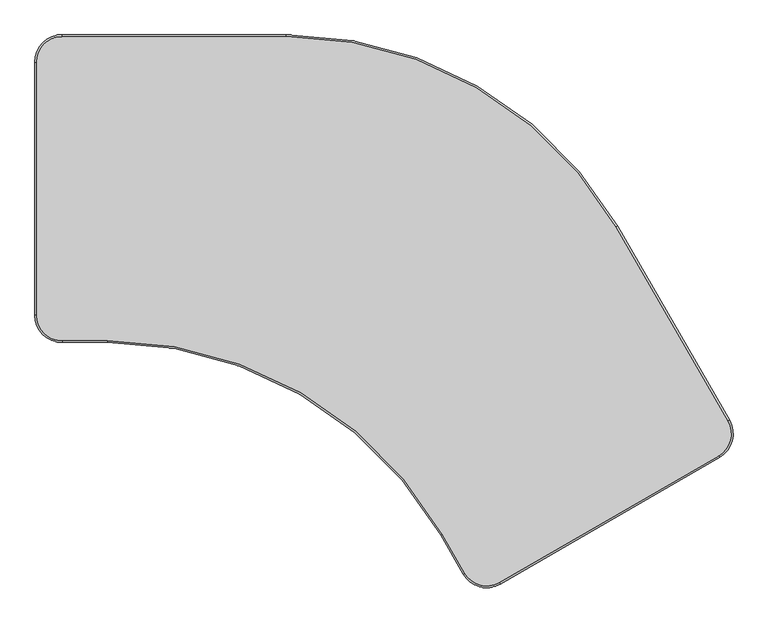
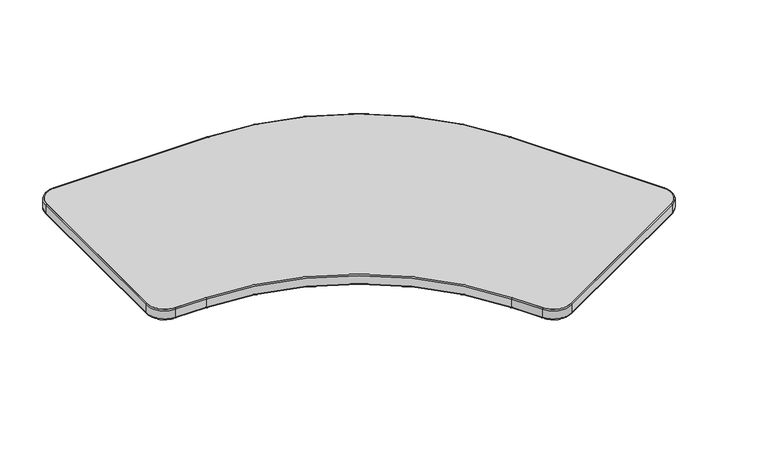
"""IFC4 building model written with IfcOpenShell, lengths in millimetres: furniture geometry, Steelcase - Answer Solution - Universal Table - Corner 120deg - 3mm Edge : 24D x 36W."""

from ifc_helpers import new_model, si_unit, point, frame, frame_2d, origin, place, context, project, spatial, polyline, circle_curve, ellipse_curve, trimmed, segment, composite_curve, outline, extrude, source, transform, mapped, element, save
from ifc_brep_helpers import plane_surface, cylinder_surface, revolved_surface, advanced_brep


def furniture_45c099b7(model_context):
    return source(origin(), model_context, "Body", "SolidModel", [
        advanced_brep(
        [(53.8515842, -609.5840268, 641.1116623), (0.0, -555.7324426, 641.1116623), (3.0515842, -555.7324426, 638.1749651), (53.8515842, -606.5324426, 638.1749651), (53.8515842, -609.5840268, 665.3021988), (0.0, -555.7324426, 665.3021988), (53.8515842, -606.5324426, 668.274), (3.0515842, -555.7324426, 668.274), (143.5214355, -606.5324426, 638.1749651), (143.5214355, -609.5840268, 641.1116623), (143.5214355, -609.5840268, 665.3021988), (143.5214355, -606.5324426, 668.274), (804.0499395, -991.1206911, 641.1116623), (806.6933135, -989.5959814, 638.1749651), (804.0499395, -991.1206911, 665.3021988), (806.6933135, -989.5959814, 668.274), (851.3482629, -1067.0138229, 638.1749651), (848.7048888, -1068.5385326, 641.1116623), (848.7048888, -1068.5385326, 665.3021988), (851.3482629, -1067.0138229, 668.274), (922.2785485, -1088.2686786, 641.1116623), (920.7527561, -1085.6259294, 638.1749651), (922.2785485, -1088.2686786, 665.3021988), (920.7527561, -1085.6259294, 668.274), (1355.4464438, -834.655351, 638.1749651), (1356.9722362, -837.2981003, 641.1116623), (1356.9722362, -837.2981003, 665.3021988), (1355.4464438, -834.655351, 668.274), (1376.6855871, -763.739469, 641.1116623), (1374.0427069, -765.2650345, 638.1749651), (1376.6855871, -763.739469, 665.3021988), (1374.0427069, -765.2650345, 668.274), (1152.1681834, -380.8909984, 638.1749651), (1154.8110636, -379.3654329, 641.1116623), (1154.8110636, -379.3654329, 665.3021988), (1152.1681834, -380.8909984, 668.274), (497.7237019, 0.041684, 641.1116623), (497.7237019, -3.0099001, 638.1749651), (497.7237019, 0.041684, 665.3021988), (497.7237019, -3.0099001, 668.274), (53.8515842, -3.0099001, 638.1749651), (53.8515842, 0.041684, 641.1116623), (53.8515842, 0.041684, 665.3021988), (53.8515842, -3.0099001, 668.274), (0.0, -53.8099001, 641.1116623), (3.0515842, -53.8099001, 638.1749651), (0.0, -53.8099001, 665.3021988), (3.0515842, -53.8099001, 668.274)],
        [
            (0, 1, circle_curve(frame((53.8515842, -555.7324426, 641.1116623), z_axis=(0.0, 0.0, -1.0), x_axis=(-1.0, 0.0, 0.0)), 53.8515842)),
            (1, 2, circle_curve(frame((2.9388598, -555.7324426, 641.1116623), z_axis=(0.0, -1.0, 0.0), x_axis=(1.0, 0.0, 0.0)), 2.9388598)),
            (2, 3, circle_curve(frame((53.8515842, -555.7324426, 638.1749651), z_axis=(0.0, 0.0, 1.0), x_axis=(-1.0, 0.0, 0.0)), 50.8)),
            (3, 0, circle_curve(frame((53.8515842, -606.6451669, 641.1116623), z_axis=(-1.0, 0.0, 0.0), x_axis=(0.0, 1.0, 0.0)), 2.9388598)),
            (4, 5, circle_curve(frame((53.8515842, -555.7324426, 665.3021988), z_axis=(0.0, 0.0, -1.0), x_axis=(-1.0, 0.0, 0.0)), 53.8515842)),
            (5, 1),
            (0, 4),
            (6, 7, circle_curve(frame((53.8515842, -555.7324426, 668.274), z_axis=(0.0, 0.0, -1.0), x_axis=(-1.0, 0.0, 0.0)), 50.8)),
            (7, 5, circle_curve(frame((2.9728441, -555.7324426, 665.3021988), z_axis=(0.0, -1.0, 0.0), x_axis=(1.0, 0.0, 0.0)), 2.9728441)),
            (4, 6, circle_curve(frame((53.8515842, -606.6111826, 665.3021988), z_axis=(-1.0, 0.0, 0.0), x_axis=(0.0, 1.0, 0.0)), 2.9728441)),
            (2, 7),
            (6, 3),
            (3, 8),
            (8, 9, circle_curve(frame((143.5214355, -606.6451669, 641.1116623), z_axis=(-1.0, 0.0, 0.0), x_axis=(0.0, 1.0, 0.0)), 2.9388598)),
            (9, 0),
            (9, 10),
            (10, 4),
            (10, 11, circle_curve(frame((143.5214355, -606.6111826, 665.3021988), z_axis=(-1.0, 0.0, 0.0), x_axis=(0.0, 1.0, 0.0)), 2.9728441)),
            (11, 6),
            (11, 8),
            (12, 9, circle_curve(frame((143.5214355, -1372.116419, 641.1116623), z_axis=(0.0, 0.0, 1.0), x_axis=(0.0, 1.0, 0.0)), 762.5323923)),
            (8, 13, circle_curve(frame((143.5214355, -1372.116419, 638.1749651), z_axis=(0.0, 0.0, -1.0), x_axis=(0.0, 1.0, 0.0)), 765.5839765)),
            (13, 12, circle_curve(frame((806.5956683, -989.6523036, 641.1116623), z_axis=(-0.49964530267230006, 0.8662300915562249, 0.0), x_axis=(0.8662300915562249, 0.49964530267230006, 0.0)), 2.9388598)),
            (14, 10, circle_curve(frame((143.5214355, -1372.116419, 665.3021988), z_axis=(0.0, 0.0, 1.0), x_axis=(0.0, 1.0, 0.0)), 762.5323923)),
            (12, 14),
            (15, 11, circle_curve(frame((143.5214355, -1372.116419, 668.274), z_axis=(0.0, 0.0, 1.0), x_axis=(0.0, 1.0, 0.0)), 765.5839765)),
            (14, 15, circle_curve(frame((806.6251065, -989.6353235, 665.3021988), z_axis=(-0.4996453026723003, 0.8662300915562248, 0.0), x_axis=(0.8662300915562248, 0.4996453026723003, 0.0)), 2.9728441)),
            (15, 13),
            (13, 16),
            (16, 17, circle_curve(frame((851.2506177, -1067.0701451, 641.1116623), z_axis=(-0.49964530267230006, 0.8662300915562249, 0.0), x_axis=(0.8662300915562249, 0.49964530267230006, 0.0)), 2.9388598)),
            (17, 12),
            (17, 18),
            (18, 14),
            (18, 19, circle_curve(frame((851.2800559, -1067.053165, 665.3021988), z_axis=(-0.49964530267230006, 0.8662300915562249, 0.0), x_axis=(0.8662300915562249, 0.49964530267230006, 0.0)), 2.9728441)),
            (19, 15),
            (19, 16),
            (20, 17, circle_curve(frame((895.3527515, -1041.6318415, 641.1116623), z_axis=(0.0, 0.0, -1.0), x_axis=(-0.866230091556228, -0.49964530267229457, 0.0)), 53.8515842)),
            (16, 21, circle_curve(frame((895.3527515, -1041.6318415, 638.1749651), z_axis=(0.0, 0.0, 1.0), x_axis=(-0.866230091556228, -0.49964530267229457, 0.0)), 50.8)),
            (21, 20, circle_curve(frame((920.8091183, -1085.7235515, 641.1116623), z_axis=(-0.8660253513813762, -0.5000000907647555, 0.0), x_axis=(-0.5000000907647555, 0.8660253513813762, 0.0)), 2.9388598)),
            (22, 18, circle_curve(frame((895.3527515, -1041.6318415, 665.3021988), z_axis=(0.0, 0.0, -1.0), x_axis=(-0.866230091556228, -0.49964530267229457, 0.0)), 53.8515842)),
            (20, 22),
            (23, 19, circle_curve(frame((895.3527515, -1041.6318415, 668.274), z_axis=(0.0, 0.0, -1.0), x_axis=(-0.866230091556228, -0.49964530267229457, 0.0)), 50.8)),
            (22, 23, circle_curve(frame((920.7921262, -1085.6941203, 665.3021988), z_axis=(-0.8660253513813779, -0.5000000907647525, 0.0), x_axis=(-0.5000000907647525, 0.8660253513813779, 0.0)), 2.9728441)),
            (23, 21),
            (21, 24),
            (24, 25, circle_curve(frame((1355.502806, -834.7529732, 641.1116623), z_axis=(-0.8660253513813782, -0.5000000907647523, 0.0), x_axis=(-0.5000000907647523, 0.8660253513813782, 0.0)), 2.9388598)),
            (25, 20),
            (25, 26),
            (26, 22),
            (26, 27, circle_curve(frame((1355.4858139, -834.7235419, 665.3021988), z_axis=(-0.8660253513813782, -0.5000000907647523, 0.0), x_axis=(-0.5000000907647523, 0.8660253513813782, 0.0)), 2.9728441)),
            (27, 23),
            (27, 24),
            (28, 25, circle_curve(frame((1330.0464392, -790.6612632, 641.1116623), z_axis=(0.0, 0.0, -1.0), x_axis=(0.5000000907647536, -0.8660253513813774, 0.0)), 53.8515842)),
            (24, 29, circle_curve(frame((1330.0464392, -790.6612632, 638.1749651), z_axis=(0.0, 0.0, 1.0), x_axis=(0.5000000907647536, -0.8660253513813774, 0.0)), 50.8)),
            (29, 28, circle_curve(frame((1374.1403338, -765.2086807, 641.1116623), z_axis=(0.49992576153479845, -0.8660682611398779, 0.0), x_axis=(-0.8660682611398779, -0.49992576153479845, 0.0)), 2.9388598)),
            (30, 26, circle_curve(frame((1330.0464392, -790.6612632, 665.3021988), z_axis=(0.0, 0.0, -1.0), x_axis=(0.5000000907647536, -0.8660253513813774, 0.0)), 53.8515842)),
            (28, 30),
            (31, 27, circle_curve(frame((1330.0464392, -790.6612632, 668.274), z_axis=(0.0, 0.0, -1.0), x_axis=(0.5000000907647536, -0.8660253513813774, 0.0)), 50.8)),
            (30, 31, circle_curve(frame((1374.1109011, -765.2256703, 665.3021988), z_axis=(0.49992576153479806, -0.8660682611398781, 0.0), x_axis=(-0.8660682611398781, -0.49992576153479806, 0.0)), 2.9728441)),
            (31, 29),
            (29, 32),
            (32, 33, circle_curve(frame((1152.2658104, -380.8346446, 641.1116623), z_axis=(0.4999257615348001, -0.866068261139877, 0.0), x_axis=(-0.866068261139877, -0.4999257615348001, 0.0)), 2.9388598)),
            (33, 28),
            (33, 34),
            (34, 30),
            (34, 35, circle_curve(frame((1152.2363777, -380.8516343, 665.3021988), z_axis=(0.4999257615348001, -0.866068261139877, 0.0), x_axis=(-0.866068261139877, -0.4999257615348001, 0.0)), 2.9728441)),
            (35, 31),
            (35, 32),
            (36, 33, circle_curve(frame((497.7237019, -758.6599001, 641.1116623), z_axis=(0.0, 0.0, -1.0), x_axis=(0.8660682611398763, 0.49992576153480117, 0.0)), 758.7015842)),
            (32, 37, circle_curve(frame((497.7237019, -758.6599001, 638.1749651), z_axis=(0.0, 0.0, 1.0), x_axis=(0.8660682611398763, 0.49992576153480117, 0.0)), 755.65)),
            (37, 36, circle_curve(frame((497.7237019, -2.8971758, 641.1116623), z_axis=(0.9999999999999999, 0.0, 0.0), x_axis=(0.0, -0.9999999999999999, 0.0)), 2.9388598)),
            (38, 34, circle_curve(frame((497.7237019, -758.6599001, 665.3021988), z_axis=(0.0, 0.0, -1.0), x_axis=(0.8660682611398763, 0.49992576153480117, 0.0)), 758.7015842)),
            (36, 38),
            (39, 35, circle_curve(frame((497.7237019, -758.6599001, 668.274), z_axis=(0.0, 0.0, -1.0), x_axis=(0.8660682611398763, 0.49992576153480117, 0.0)), 755.65)),
            (38, 39, circle_curve(frame((497.7237019, -2.9311601, 665.3021988), z_axis=(0.9999999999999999, 0.0, 0.0), x_axis=(0.0, -0.9999999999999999, 0.0)), 2.9728441)),
            (39, 37),
            (37, 40),
            (40, 41, circle_curve(frame((53.8515842, -2.8971758, 641.1116623), z_axis=(1.0, 0.0, 0.0), x_axis=(0.0, -1.0, 0.0)), 2.9388598)),
            (41, 36),
            (41, 42),
            (42, 38),
            (42, 43, circle_curve(frame((53.8515842, -2.9311601, 665.3021988), z_axis=(1.0, 0.0, 0.0), x_axis=(0.0, -1.0, 0.0)), 2.9728441)),
            (43, 39),
            (43, 40),
            (44, 41, circle_curve(frame((53.8515842, -53.8099001, 641.1116623), z_axis=(0.0, 0.0, -1.0), x_axis=(0.0, 1.0, 0.0)), 53.8515842)),
            (40, 45, circle_curve(frame((53.8515842, -53.8099001, 638.1749651), z_axis=(0.0, 0.0, 1.0), x_axis=(0.0, 1.0, 0.0)), 50.8)),
            (45, 44, circle_curve(frame((2.9388598, -53.8099001, 641.1116623), z_axis=(0.0, 1.0, 0.0), x_axis=(1.0, 0.0, 0.0)), 2.9388598)),
            (46, 42, circle_curve(frame((53.8515842, -53.8099001, 665.3021988), z_axis=(0.0, 0.0, -1.0), x_axis=(0.0, 1.0, 0.0)), 53.8515842)),
            (44, 46),
            (47, 43, circle_curve(frame((53.8515842, -53.8099001, 668.274), z_axis=(0.0, 0.0, -1.0), x_axis=(0.0, 1.0, 0.0)), 50.8)),
            (46, 47, circle_curve(frame((2.9728441, -53.8099001, 665.3021988), z_axis=(0.0, 1.0, 0.0), x_axis=(1.0, 0.0, 0.0)), 2.9728441)),
            (47, 45),
            (45, 2),
            (1, 44),
            (5, 46),
            (7, 47),
        ],
        [
            revolved_surface(trimmed(ellipse_curve(frame((2.9388598, -555.7324426, 641.1116623), z_axis=(0.0, 1.0, 0.0), x_axis=(1.0, 0.0, 0.0)), 2.9388598, 2.9388598), [point((3.0515842, -555.7324426, 638.1749651))], [point((0.0, -555.7324426, 641.1116623))], True, "CARTESIAN"), (53.8515842, -555.7324426, 638.1749651), (0.0, 0.0, 1.0)),
            cylinder_surface(frame((53.8515842, -555.7324426, 638.1749651), z_axis=(0.0, 0.0, 1.0), x_axis=(-1.0, 0.0, 0.0)), 53.8515842),
            revolved_surface(trimmed(ellipse_curve(frame((2.9728441, -555.7324426, 665.3021988), z_axis=(0.0, 1.0, 0.0), x_axis=(1.0, 0.0, 0.0)), 2.9728441, 2.9728441), [point((0.0, -555.7324426, 665.3021988))], [point((3.0515842, -555.7324426, 668.274))], True, "CARTESIAN"), (53.8515842, -555.7324426, 638.1749651), (0.0, 0.0, 1.0)),
            revolved_surface(polyline([(3.0515842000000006, -555.7324426, 668.274), (3.0515842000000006, -555.7324426, 638.1749651)]), (53.8515842, -555.7324426, 638.1749651), (0.0, 0.0, 1.0)),
            cylinder_surface(frame((53.8515842, -606.6451669, 641.1116623), z_axis=(-1.0, 0.0, 0.0), x_axis=(0.0, 1.0, 0.0)), 2.9388598),
            plane_surface(frame((53.8515842, -609.5840268, 641.1116623), z_axis=(0.0, -1.0, 0.0), x_axis=(1.0, 0.0, 0.0))),
            cylinder_surface(frame((53.8515842, -606.6111826, 665.3021988), z_axis=(-1.0, 0.0, 0.0), x_axis=(0.0, 1.0, 0.0)), 2.9728441),
            plane_surface(frame((53.8515842, -606.5324426, 668.274), z_axis=(0.0, 1.0, 0.0), x_axis=(1.0, 0.0, 0.0))),
            revolved_surface(trimmed(ellipse_curve(frame((143.5214355, -606.6451669, 641.1116623), z_axis=(-1.0, 0.0, 0.0), x_axis=(0.0, 1.0, 0.0)), 2.9388598, 2.9388598), [point((143.5214355, -606.5324426, 638.1749651))], [point((143.5214355, -609.5840268, 641.1116623))], True, "CARTESIAN"), (143.5214355, -1372.116419, 638.1749651), (0.0, 0.0, -1.0)),
            revolved_surface(polyline([(143.5214355, -609.5840267, 641.1116623), (143.5214355, -609.5840267, 665.3021988)]), (143.5214355, -1372.116419, 638.1749651), (0.0, 0.0, -1.0)),
            revolved_surface(trimmed(ellipse_curve(frame((143.5214355, -606.6111826, 665.3021988), z_axis=(-1.0, 0.0, 0.0), x_axis=(0.0, 1.0, 0.0)), 2.9728441, 2.9728441), [point((143.5214355, -609.5840268, 665.3021988))], [point((143.5214355, -606.5324426, 668.274))], True, "CARTESIAN"), (143.5214355, -1372.116419, 638.1749651), (0.0, 0.0, -1.0)),
            cylinder_surface(frame((143.5214355, -1372.116419, 638.1749651), z_axis=(0.0, 0.0, -1.0), x_axis=(0.0, 1.0, 0.0)), 765.5839765),
            cylinder_surface(frame((806.5956683, -989.6523036, 641.1116623), z_axis=(-0.49964530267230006, 0.8662300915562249, 0.0), x_axis=(0.8662300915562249, 0.49964530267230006, 0.0)), 2.9388598),
            plane_surface(frame((804.0499395, -991.1206911, 641.1116623), z_axis=(-0.866230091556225, -0.49964530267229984, 0.0), x_axis=(0.49964530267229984, -0.866230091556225, 0.0))),
            cylinder_surface(frame((806.6251065, -989.6353235, 665.3021988), z_axis=(-0.49964530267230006, 0.8662300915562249, 0.0), x_axis=(0.8662300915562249, 0.49964530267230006, 0.0)), 2.9728441),
            plane_surface(frame((806.6933135, -989.5959814, 668.274), z_axis=(0.8662300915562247, 0.4996453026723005, 0.0), x_axis=(0.4996453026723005, -0.8662300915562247, 0.0))),
            revolved_surface(trimmed(ellipse_curve(frame((851.2506177, -1067.0701451, 641.1116623), z_axis=(-0.4996453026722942, 0.8662300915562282, 0.0), x_axis=(0.8662300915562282, 0.4996453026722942, 0.0)), 2.9388598, 2.9388598), [point((851.3482629, -1067.0138229, 638.1749651))], [point((848.7048888, -1068.5385326, 641.1116623))], True, "CARTESIAN"), (895.3527515, -1041.6318415, 638.1749651), (0.0, 0.0, 1.0)),
            cylinder_surface(frame((895.3527515, -1041.6318415, 638.1749651), z_axis=(0.0, 0.0, 1.0), x_axis=(-0.866230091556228, -0.49964530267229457, 0.0)), 53.8515842),
            revolved_surface(trimmed(ellipse_curve(frame((851.2800559, -1067.053165, 665.3021988), z_axis=(-0.4996453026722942, 0.8662300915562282, 0.0), x_axis=(0.8662300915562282, 0.4996453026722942, 0.0)), 2.9728441, 2.9728441), [point((848.7048888, -1068.5385326, 665.3021988))], [point((851.3482629, -1067.0138229, 668.274))], True, "CARTESIAN"), (895.3527515, -1041.6318415, 638.1749651), (0.0, 0.0, 1.0)),
            revolved_surface(polyline([(851.3482628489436, -1067.0138228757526, 668.274), (851.3482628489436, -1067.0138228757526, 638.1749651)]), (895.3527515, -1041.6318415, 638.1749651), (0.0, 0.0, 1.0)),
            cylinder_surface(frame((920.8091183, -1085.7235515, 641.1116623), z_axis=(-0.8660253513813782, -0.5000000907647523, 0.0), x_axis=(-0.5000000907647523, 0.8660253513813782, 0.0)), 2.9388598),
            plane_surface(frame((922.2785485, -1088.2686786, 641.1116623), z_axis=(0.5000000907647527, -0.866025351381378, 0.0), x_axis=(0.866025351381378, 0.5000000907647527, 0.0))),
            cylinder_surface(frame((920.7921262, -1085.6941203, 665.3021988), z_axis=(-0.8660253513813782, -0.5000000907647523, 0.0), x_axis=(-0.5000000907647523, 0.8660253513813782, 0.0)), 2.9728441),
            plane_surface(frame((920.7527561, -1085.6259294, 668.274), z_axis=(-0.5000000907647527, 0.8660253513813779, 0.0), x_axis=(0.8660253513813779, 0.5000000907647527, 0.0))),
            revolved_surface(trimmed(ellipse_curve(frame((1355.502806, -834.7529732, 641.1116623), z_axis=(-0.8660253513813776, -0.5000000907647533, 0.0), x_axis=(-0.5000000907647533, 0.8660253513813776, 0.0)), 2.9388598, 2.9388598), [point((1355.4464438, -834.655351, 638.1749651))], [point((1356.9722362, -837.2981003, 641.1116623))], True, "CARTESIAN"), (1330.0464392, -790.6612632, 638.1749651), (0.0, 0.0, 1.0)),
            cylinder_surface(frame((1330.0464392, -790.6612632, 638.1749651), z_axis=(0.0, 0.0, 1.0), x_axis=(0.5000000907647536, -0.8660253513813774, 0.0)), 53.8515842),
            revolved_surface(trimmed(ellipse_curve(frame((1355.4858139, -834.7235419, 665.3021988), z_axis=(-0.8660253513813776, -0.5000000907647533, 0.0), x_axis=(-0.5000000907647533, 0.8660253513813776, 0.0)), 2.9728441, 2.9728441), [point((1356.9722362, -837.2981003, 665.3021988))], [point((1355.4464438, -834.655351, 668.274))], True, "CARTESIAN"), (1330.0464392, -790.6612632, 638.1749651), (0.0, 0.0, 1.0)),
            revolved_surface(polyline([(1355.4464438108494, -834.655351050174, 668.274), (1355.4464438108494, -834.655351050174, 638.1749651)]), (1330.0464392, -790.6612632, 638.1749651), (0.0, 0.0, 1.0)),
            cylinder_surface(frame((1374.1403338, -765.2086807, 641.1116623), z_axis=(0.4999257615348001, -0.866068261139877, 0.0), x_axis=(-0.866068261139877, -0.4999257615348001, 0.0)), 2.9388598),
            plane_surface(frame((1376.6855871, -763.739469, 641.1116623), z_axis=(0.8660682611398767, 0.4999257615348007, 0.0), x_axis=(-0.4999257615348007, 0.8660682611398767, 0.0))),
            cylinder_surface(frame((1374.1109011, -765.2256703, 665.3021988), z_axis=(0.4999257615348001, -0.866068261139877, 0.0), x_axis=(-0.866068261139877, -0.4999257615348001, 0.0)), 2.9728441),
            plane_surface(frame((1374.0427069, -765.2650345, 668.274), z_axis=(-0.8660682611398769, -0.49992576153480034, 0.0), x_axis=(-0.49992576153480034, 0.8660682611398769, 0.0))),
            revolved_surface(trimmed(ellipse_curve(frame((1152.2658104, -380.8346446, 641.1116623), z_axis=(0.49992576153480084, -0.8660682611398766, 0.0), x_axis=(-0.8660682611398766, -0.49992576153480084, 0.0)), 2.9388598, 2.9388598), [point((1152.1681834, -380.8909984, 638.1749651))], [point((1154.8110636, -379.3654329, 641.1116623))], True, "CARTESIAN"), (497.7237019, -758.6599001, 638.1749651), (0.0, 0.0, 1.0)),
            cylinder_surface(frame((497.7237019, -758.6599001, 638.1749651), z_axis=(0.0, 0.0, 1.0), x_axis=(0.8660682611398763, 0.49992576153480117, 0.0)), 758.7015842),
            revolved_surface(trimmed(ellipse_curve(frame((1152.2363777, -380.8516343, 665.3021988), z_axis=(0.49992576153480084, -0.8660682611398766, 0.0), x_axis=(-0.8660682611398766, -0.49992576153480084, 0.0)), 2.9728441, 2.9728441), [point((1154.8110636, -379.3654329, 665.3021988))], [point((1152.1681834, -380.8909984, 668.274))], True, "CARTESIAN"), (497.7237019, -758.6599001, 638.1749651), (0.0, 0.0, 1.0)),
            revolved_surface(polyline([(1152.1681834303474, -380.8909983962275, 668.274), (1152.1681834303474, -380.8909983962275, 638.1749651)]), (497.7237019, -758.6599001, 638.1749651), (0.0, 0.0, 1.0)),
            cylinder_surface(frame((497.7237019, -2.8971758, 641.1116623), z_axis=(1.0, 0.0, 0.0), x_axis=(0.0, -1.0, 0.0)), 2.9388598),
            plane_surface(frame((497.7237019, 0.041684, 641.1116623), z_axis=(0.0, 1.0, 0.0), x_axis=(-1.0, 0.0, 0.0))),
            cylinder_surface(frame((497.7237019, -2.9311601, 665.3021988), z_axis=(1.0, 0.0, 0.0), x_axis=(0.0, -1.0, 0.0)), 2.9728441),
            plane_surface(frame((497.7237019, -3.0099001, 668.274), z_axis=(0.0, -1.0, 0.0), x_axis=(-1.0, 0.0, 0.0))),
            revolved_surface(trimmed(ellipse_curve(frame((53.8515842, -2.8971758, 641.1116623), z_axis=(1.0, 0.0, 0.0), x_axis=(0.0, -1.0, 0.0)), 2.9388598, 2.9388598), [point((53.8515842, -3.0099001, 638.1749651))], [point((53.8515842, 0.041684, 641.1116623))], True, "CARTESIAN"), (53.8515842, -53.8099001, 638.1749651), (0.0, 0.0, 1.0)),
            cylinder_surface(frame((53.8515842, -53.8099001, 638.1749651), z_axis=(0.0, 0.0, 1.0), x_axis=(0.0, 1.0, 0.0)), 53.8515842),
            revolved_surface(trimmed(ellipse_curve(frame((53.8515842, -2.9311601, 665.3021988), z_axis=(1.0, 0.0, 0.0), x_axis=(0.0, -1.0, 0.0)), 2.9728441, 2.9728441), [point((53.8515842, 0.041684, 665.3021988))], [point((53.8515842, -3.0099001, 668.274))], True, "CARTESIAN"), (53.8515842, -53.8099001, 638.1749651), (0.0, 0.0, 1.0)),
            revolved_surface(polyline([(53.8515842, -3.009900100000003, 668.274), (53.8515842, -3.009900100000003, 638.1749651)]), (53.8515842, -53.8099001, 638.1749651), (0.0, 0.0, 1.0)),
            cylinder_surface(frame((2.9388598, -53.8099001, 641.1116623), z_axis=(0.0, 1.0, 0.0), x_axis=(1.0, 0.0, 0.0)), 2.9388598),
            plane_surface(frame((0.0, -53.8099001, 641.1116623), z_axis=(-1.0, 0.0, 0.0), x_axis=(0.0, -1.0, 0.0))),
            cylinder_surface(frame((2.9728441, -53.8099001, 665.3021988), z_axis=(0.0, 1.0, 0.0), x_axis=(1.0, 0.0, 0.0)), 2.9728441),
            plane_surface(frame((3.0515842, -53.8099001, 668.274), z_axis=(1.0, 0.0, 0.0), x_axis=(0.0, -1.0, 0.0))),
        ],
        [
            (0, [[1, 2, 3, 4]]),
            (1, [[5, 6, -1, 7]]),
            (2, [[8, 9, -5, 10]]),
            (3, [[-3, 11, -8, 12]]),
            (4, [[-4, 13, 14, 15]]),
            (5, [[-7, -15, 16, 17]]),
            (6, [[-10, -17, 18, 19]]),
            (7, [[-12, -19, 20, -13]]),
            (8, [[21, -14, 22, 23]]),
            (9, [[24, -16, -21, 25]]),
            (10, [[26, -18, -24, 27]]),
            (11, [[-22, -20, -26, 28]]),
            (12, [[-23, 29, 30, 31]]),
            (13, [[-25, -31, 32, 33]]),
            (14, [[-27, -33, 34, 35]]),
            (15, [[-28, -35, 36, -29]]),
            (16, [[37, -30, 38, 39]]),
            (17, [[40, -32, -37, 41]]),
            (18, [[42, -34, -40, 43]]),
            (19, [[-38, -36, -42, 44]]),
            (20, [[-39, 45, 46, 47]]),
            (21, [[-41, -47, 48, 49]]),
            (22, [[-43, -49, 50, 51]]),
            (23, [[-44, -51, 52, -45]]),
            (24, [[53, -46, 54, 55]]),
            (25, [[56, -48, -53, 57]]),
            (26, [[58, -50, -56, 59]]),
            (27, [[-54, -52, -58, 60]]),
            (28, [[-55, 61, 62, 63]]),
            (29, [[-57, -63, 64, 65]]),
            (30, [[-59, -65, 66, 67]]),
            (31, [[-60, -67, 68, -61]]),
            (32, [[69, -62, 70, 71]]),
            (33, [[72, -64, -69, 73]]),
            (34, [[74, -66, -72, 75]]),
            (35, [[-70, -68, -74, 76]]),
            (36, [[-71, 77, 78, 79]]),
            (37, [[-73, -79, 80, 81]]),
            (38, [[-75, -81, 82, 83]]),
            (39, [[-76, -83, 84, -77]]),
            (40, [[85, -78, 86, 87]]),
            (41, [[88, -80, -85, 89]]),
            (42, [[90, -82, -88, 91]]),
            (43, [[-86, -84, -90, 92]]),
            (44, [[-87, 93, -2, 94]]),
            (45, [[-89, -94, -6, 95]]),
            (46, [[-91, -95, -9, 96]]),
            (47, [[-92, -96, -11, -93]]),
        ],
    ),
        extrude(outline(composite_curve([segment(polyline([(53.8515842, -3.0099001), (497.7237019, -3.0099001)]), True, "CONTINUOUS"), segment(trimmed(circle_curve(frame_2d((497.7237019, -758.6599001)), 755.65), [point((497.7237019, -3.0099001))], [point((1152.1681834, -380.8909984))], False, "CARTESIAN"), True, "CONTINUOUS"), segment(polyline([(1152.1681834, -380.8909984), (1374.0427069, -765.2650345)]), True, "CONTINUOUS"), segment(trimmed(circle_curve(frame_2d((1330.0464392, -790.6612632)), 50.8), [point((1374.0427069, -765.2650345))], [point((1355.4464438, -834.655351))], False, "CARTESIAN"), True, "CONTINUOUS"), segment(polyline([(1355.4464438, -834.655351), (920.7527561, -1085.6259294)]), True, "CONTINUOUS"), segment(trimmed(circle_curve(frame_2d((895.3527515, -1041.6318415)), 50.8), [point((920.7527561, -1085.6259294))], [point((851.3482629, -1067.0138229))], False, "CARTESIAN"), True, "CONTINUOUS"), segment(polyline([(851.3482629, -1067.0138229), (806.6933135, -989.5959814)]), True, "CONTINUOUS"), segment(trimmed(circle_curve(frame_2d((143.5214355, -1372.116419)), 765.5839765), [point((806.6933135, -989.5959814))], [point((143.5214355, -606.5324426))], True, "CARTESIAN"), True, "CONTINUOUS"), segment(polyline([(143.5214355, -606.5324426), (53.8515842, -606.5324426)]), True, "CONTINUOUS"), segment(trimmed(circle_curve(frame_2d((53.8515842, -555.7324426)), 50.8), [point((53.8515842, -606.5324426))], [point((3.0515842, -555.7324426))], False, "CARTESIAN"), True, "CONTINUOUS"), segment(polyline([(3.0515842, -555.7324426), (3.0515842, -53.8099001)]), True, "CONTINUOUS"), segment(trimmed(circle_curve(frame_2d((53.8515842, -53.8099001)), 50.8), [point((3.0515842, -53.8099001))], [point((53.8515842, -3.0099001))], False, "CARTESIAN"), True, "CONTINUOUS")], self_intersect=False)), frame((0.0, 0.0, 638.1749651), z_axis=(0.0, 0.0, 1.0), x_axis=(1.0, 0.0, 0.0)), (0.0, 0.0, 1.0), 30.0990349),
    ])


if __name__ == "__main__":
    model = new_model("IFC4")
    model_context = context("Model", 3, world=origin())
    ifc_project = project(units=[si_unit("LENGTHUNIT", "METRE", prefix="MILLI")], contexts=[model_context])
    site = spatial("IfcSite", under=ifc_project)
    building = spatial("IfcBuilding", under=site)
    placement = place(None, origin())
    furniture_shape = furniture_45c099b7(model_context)
    element("IfcFurniture", 1, ObjectType="Steelcase - Answer Solution - Universal Table - Corner 120deg - 3mm Edge : 24D x 36W", at=placement, inside=building, context=model_context, shape_type="MappedRepresentation", body=[
        mapped(furniture_shape, transform((0.0, 0.0, 0.0), x_axis=(1.0, 0.0, 0.0), y_axis=(0.0, 1.0, 0.0), z_axis=(0.0, 0.0, 1.0))),
    ])
    save(model, "model.ifc")
